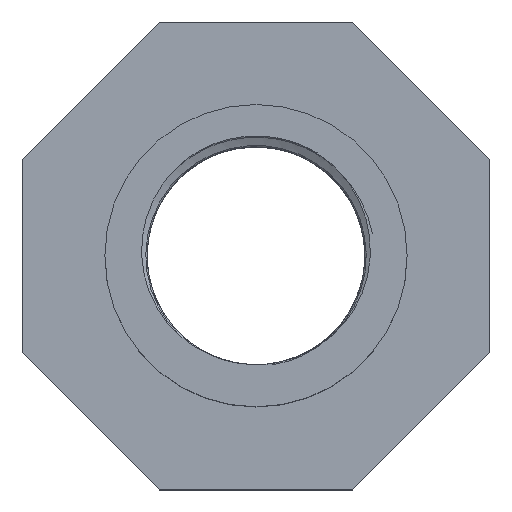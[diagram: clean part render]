
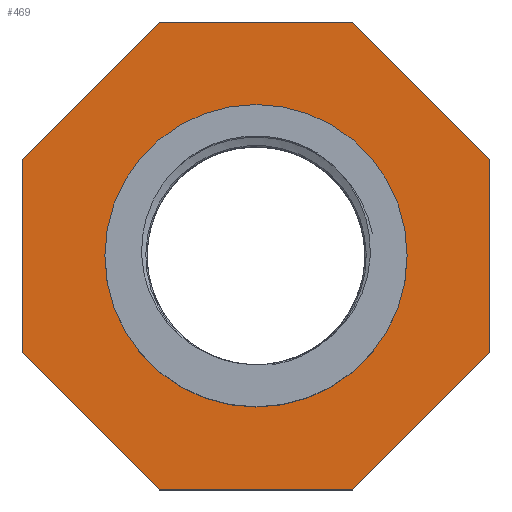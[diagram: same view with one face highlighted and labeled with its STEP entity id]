
A CAD part, top view. The second image highlights one B-rep face of the part: STEP entity #469.
In plain terms, the highlighted planar face has unit normal (0, 0, 1).
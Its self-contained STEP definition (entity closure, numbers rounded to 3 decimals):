
#16=FACE_BOUND('',#107,.T.);
#38=PLANE('',#497);
#49=CIRCLE('',#498,21.);
#76=FACE_OUTER_BOUND('',#106,.T.);
#106=EDGE_LOOP('',(#411,#412,#413,#414,#415,#416,#417,#418));
#107=EDGE_LOOP('',(#419));
#126=LINE('',#8258,#156);
#130=LINE('',#8266,#160);
#133=LINE('',#8272,#163);
#136=LINE('',#8278,#166);
#139=LINE('',#8284,#169);
#142=LINE('',#8290,#172);
#145=LINE('',#8296,#175);
#148=LINE('',#8301,#178);
#156=VECTOR('',#539,26.924);
#160=VECTOR('',#545,26.924);
#163=VECTOR('',#550,26.924);
#166=VECTOR('',#555,26.924);
#169=VECTOR('',#560,26.924);
#172=VECTOR('',#565,26.924);
#175=VECTOR('',#570,26.924);
#178=VECTOR('',#575,26.924);
#224=VERTEX_POINT('',#8256);
#225=VERTEX_POINT('',#8257);
#228=VERTEX_POINT('',#8265);
#230=VERTEX_POINT('',#8271);
#232=VERTEX_POINT('',#8277);
#234=VERTEX_POINT('',#8283);
#236=VERTEX_POINT('',#8289);
#238=VERTEX_POINT('',#8295);
#240=VERTEX_POINT('',#8305);
#280=EDGE_CURVE('',#224,#225,#126,.T.);
#284=EDGE_CURVE('',#228,#224,#130,.T.);
#287=EDGE_CURVE('',#230,#228,#133,.T.);
#290=EDGE_CURVE('',#232,#230,#136,.T.);
#293=EDGE_CURVE('',#234,#232,#139,.T.);
#296=EDGE_CURVE('',#236,#234,#142,.T.);
#299=EDGE_CURVE('',#238,#236,#145,.T.);
#302=EDGE_CURVE('',#225,#238,#148,.T.);
#304=EDGE_CURVE('',#240,#240,#49,.T.);
#411=ORIENTED_EDGE('',*,*,#302,.F.);
#412=ORIENTED_EDGE('',*,*,#280,.F.);
#413=ORIENTED_EDGE('',*,*,#284,.F.);
#414=ORIENTED_EDGE('',*,*,#287,.F.);
#415=ORIENTED_EDGE('',*,*,#290,.F.);
#416=ORIENTED_EDGE('',*,*,#293,.F.);
#417=ORIENTED_EDGE('',*,*,#296,.F.);
#418=ORIENTED_EDGE('',*,*,#299,.F.);
#419=ORIENTED_EDGE('',*,*,#304,.F.);
#469=ADVANCED_FACE('',(#76,#16),#38,.T.);
#497=AXIS2_PLACEMENT_3D('',#8304,#579,#580);
#498=AXIS2_PLACEMENT_3D('',#8306,#581,#582);
#539=DIRECTION('',(1.,0.,0.));
#545=DIRECTION('',(0.707,0.707,0.));
#550=DIRECTION('',(0.,1.,0.));
#555=DIRECTION('',(-0.707,0.707,0.));
#560=DIRECTION('',(-1.,0.,0.));
#565=DIRECTION('',(-0.707,-0.707,0.));
#570=DIRECTION('',(0.,-1.,0.));
#575=DIRECTION('',(0.707,-0.707,0.));
#579=DIRECTION('center_axis',(0.,0.,1.));
#580=DIRECTION('ref_axis',(1.,0.,0.));
#581=DIRECTION('center_axis',(0.,0.,1.));
#582=DIRECTION('ref_axis',(1.,0.,0.));
#8256=CARTESIAN_POINT('',(-13.462,32.5,40.));
#8257=CARTESIAN_POINT('',(13.462,32.5,40.));
#8258=CARTESIAN_POINT('',(-13.462,32.5,40.));
#8265=CARTESIAN_POINT('',(-32.5,13.462,40.));
#8266=CARTESIAN_POINT('',(-32.5,13.462,40.));
#8271=CARTESIAN_POINT('',(-32.5,-13.462,40.));
#8272=CARTESIAN_POINT('',(-32.5,-13.462,40.));
#8277=CARTESIAN_POINT('',(-13.462,-32.5,40.));
#8278=CARTESIAN_POINT('',(-13.462,-32.5,40.));
#8283=CARTESIAN_POINT('',(13.462,-32.5,40.));
#8284=CARTESIAN_POINT('',(13.462,-32.5,40.));
#8289=CARTESIAN_POINT('',(32.5,-13.462,40.));
#8290=CARTESIAN_POINT('',(32.5,-13.462,40.));
#8295=CARTESIAN_POINT('',(32.5,13.462,40.));
#8296=CARTESIAN_POINT('',(32.5,13.462,40.));
#8301=CARTESIAN_POINT('',(13.462,32.5,40.));
#8304=CARTESIAN_POINT('Origin',(21.,0.,40.));
#8305=CARTESIAN_POINT('',(21.,0.,40.));
#8306=CARTESIAN_POINT('Origin',(0.,0.,40.));
